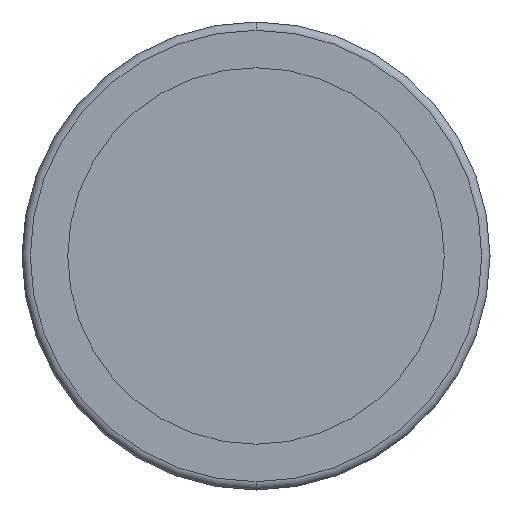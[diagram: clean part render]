
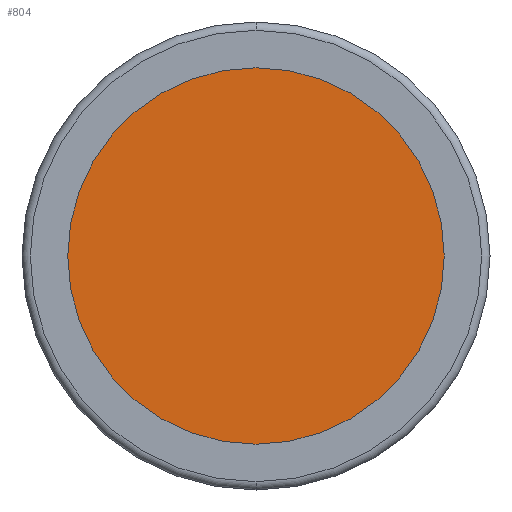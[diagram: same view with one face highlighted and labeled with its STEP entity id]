
A CAD part, front view. The second image highlights one B-rep face of the part: STEP entity #804.
In plain terms, the highlighted planar face has unit normal (0, -1, 0).
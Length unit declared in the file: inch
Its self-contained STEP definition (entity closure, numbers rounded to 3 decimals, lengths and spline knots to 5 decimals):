
#96 = CARTESIAN_POINT ( 'NONE',  ( 0., -0.565, 0. ) ) ;
#105 = DIRECTION ( 'NONE',  ( 0., -1., 0. ) ) ;
#228 = CARTESIAN_POINT ( 'NONE',  ( 0., -0.565, 0. ) ) ;
#251 = FACE_OUTER_BOUND ( 'NONE', #1145, .T. ) ;
#284 = VERTEX_POINT ( 'NONE', #826 ) ;
#342 = AXIS2_PLACEMENT_3D ( 'NONE', #96, #105, #771 ) ;
#374 = DIRECTION ( 'NONE',  ( 0., -1., 0. ) ) ;
#376 = ORIENTED_EDGE ( 'NONE', *, *, #919, .T. ) ;
#511 = DIRECTION ( 'NONE',  ( 0., -1., 0. ) ) ;
#596 = EDGE_CURVE ( 'NONE', #284, #726, #1072, .T. ) ;
#606 = AXIS2_PLACEMENT_3D ( 'NONE', #228, #511, #976 ) ;
#726 = VERTEX_POINT ( 'NONE', #1093 ) ;
#771 = DIRECTION ( 'NONE',  ( 0., 0., -1. ) ) ;
#800 = CIRCLE ( 'NONE', #606, 0.4525 ) ;
#804 = ADVANCED_FACE ( 'NONE', ( #251 ), #1137, .T. ) ;
#826 = CARTESIAN_POINT ( 'NONE',  ( 0., -0.565, -0.4525 ) ) ;
#851 = DIRECTION ( 'NONE',  ( 0., 0., -1. ) ) ;
#919 = EDGE_CURVE ( 'NONE', #726, #284, #800, .T. ) ;
#953 = CARTESIAN_POINT ( 'NONE',  ( 0., -0.565, 0. ) ) ;
#976 = DIRECTION ( 'NONE',  ( 0., 0., -1. ) ) ;
#1005 = ORIENTED_EDGE ( 'NONE', *, *, #596, .T. ) ;
#1072 = CIRCLE ( 'NONE', #342, 0.4525 ) ;
#1093 = CARTESIAN_POINT ( 'NONE',  ( 0., -0.565, 0.4525 ) ) ;
#1134 = AXIS2_PLACEMENT_3D ( 'NONE', #953, #374, #851 ) ;
#1137 = PLANE ( 'NONE',  #1134 ) ;
#1145 = EDGE_LOOP ( 'NONE', ( #376, #1005 ) ) ;
